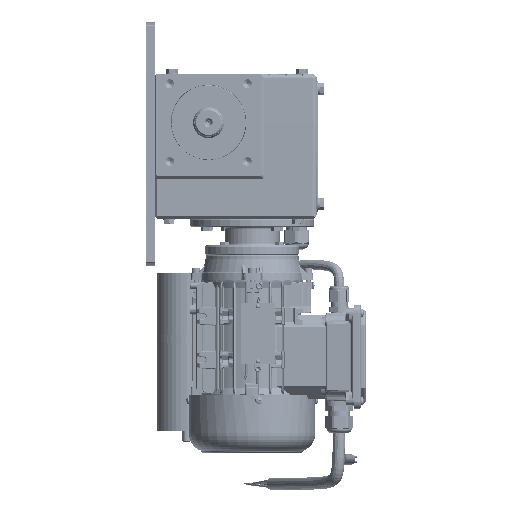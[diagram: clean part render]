
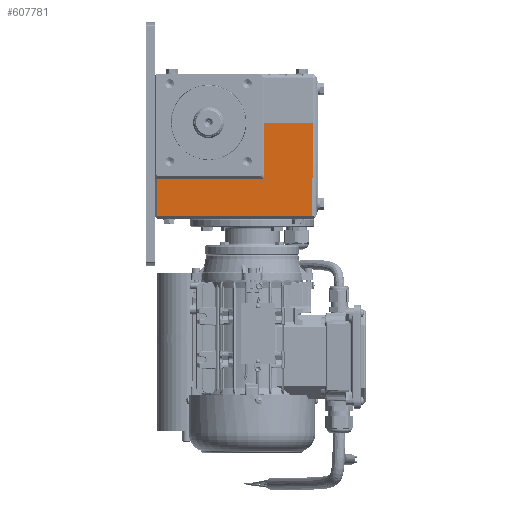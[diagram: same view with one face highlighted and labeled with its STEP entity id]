
A CAD part, left-side view. The second image highlights one B-rep face of the part: STEP entity #607781.
In plain terms, the highlighted planar face has unit normal (-1, 0, -0.009).
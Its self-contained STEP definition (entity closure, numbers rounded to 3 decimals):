
#2018 = VERTEX_POINT ( 'NONE', #98881 ) ;
#24142 = VECTOR ( 'NONE', #47215, 1000. ) ;
#47215 = DIRECTION ( 'NONE',  ( -0.009, 0.009, 1. ) ) ;
#50983 = EDGE_CURVE ( 'NONE', #521736, #702868, #375408, .T. ) ;
#51702 = ORIENTED_EDGE ( 'NONE', *, *, #50983, .F. ) ;
#68711 =( BOUNDED_CURVE ( )  B_SPLINE_CURVE ( 3, ( #193887, #304994, #364205, #238603 ),
 .UNSPECIFIED., .F., .F. ) 
 B_SPLINE_CURVE_WITH_KNOTS ( ( 4, 4 ),
 ( 2.61, 3.658 ),
 .UNSPECIFIED. ) 
 CURVE ( )  GEOMETRIC_REPRESENTATION_ITEM ( )  RATIONAL_B_SPLINE_CURVE ( ( 1., 0.911, 0.911, 1. ) ) 
 REPRESENTATION_ITEM ( '' )  );
#78133 = CARTESIAN_POINT ( 'NONE',  ( -93., -100.757, 0.011 ) ) ;
#98881 = CARTESIAN_POINT ( 'NONE',  ( -92.529, -51.85, -53.971 ) ) ;
#108630 = DIRECTION ( 'NONE',  ( 0.009, -0.009, -1. ) ) ;
#133674 = LINE ( 'NONE', #78133, #477766 ) ;
#137566 = EDGE_CURVE ( 'NONE', #581062, #702868, #133674, .T. ) ;
#149127 = VECTOR ( 'NONE', #419910, 1000. ) ;
#155018 = DIRECTION ( 'NONE',  ( -0.009, 0., 1. ) ) ;
#164887 = EDGE_CURVE ( 'NONE', #716192, #280302, #452913, .T. ) ;
#169314 = VECTOR ( 'NONE', #609310, 1000. ) ;
#183325 = ORIENTED_EDGE ( 'NONE', *, *, #540144, .F. ) ;
#185472 = EDGE_CURVE ( 'NONE', #526883, #521736, #342100, .T. ) ;
#193887 = CARTESIAN_POINT ( 'NONE',  ( -92.548, -53.952, -51.831 ) ) ;
#210619 = PLANE ( 'NONE',  #671218 ) ;
#217566 = CARTESIAN_POINT ( 'NONE',  ( -93.008, -53.492, 0.929 ) ) ;
#236227 = ORIENTED_EDGE ( 'NONE', *, *, #659332, .F. ) ;
#238603 = CARTESIAN_POINT ( 'NONE',  ( -92.529, -51.85, -53.971 ) ) ;
#264644 = CARTESIAN_POINT ( 'NONE',  ( -92.215, 49.215, -90. ) ) ;
#266213 = DIRECTION ( 'NONE',  ( -1., 0., -0.009 ) ) ;
#266732 = CARTESIAN_POINT ( 'NONE',  ( -93., -100.757, 0. ) ) ;
#278360 = EDGE_CURVE ( 'NONE', #374493, #2018, #68711, .T. ) ;
#280302 = VERTEX_POINT ( 'NONE', #264644 ) ;
#295420 = DIRECTION ( 'NONE',  ( 0., -1., 0. ) ) ;
#302662 = LINE ( 'NONE', #365533, #590361 ) ;
#304049 = DIRECTION ( 'NONE',  ( -0.009, -0.009, 1. ) ) ;
#304994 = CARTESIAN_POINT ( 'NONE',  ( -92.536, -53.964, -53.188 ) ) ;
#341870 = CARTESIAN_POINT ( 'NONE',  ( -92.585, 49.585, -47.5 ) ) ;
#342100 = LINE ( 'NONE', #453137, #384624 ) ;
#348492 = EDGE_LOOP ( 'NONE', ( #549565, #557576, #652095, #51702, #608443, #236227, #362803, #183325 ) ) ;
#362803 = ORIENTED_EDGE ( 'NONE', *, *, #278360, .T. ) ;
#364205 = CARTESIAN_POINT ( 'NONE',  ( -92.529, -53.195, -53.971 ) ) ;
#365533 = CARTESIAN_POINT ( 'NONE',  ( -92.215, 53., -90. ) ) ;
#374493 = VERTEX_POINT ( 'NONE', #417754 ) ;
#375408 = LINE ( 'NONE', #712504, #149127 ) ;
#384624 = VECTOR ( 'NONE', #679170, 1000. ) ;
#417754 = CARTESIAN_POINT ( 'NONE',  ( -92.548, -53.952, -51.831 ) ) ;
#419910 = DIRECTION ( 'NONE',  ( 0., -1., 0. ) ) ;
#431520 = CARTESIAN_POINT ( 'NONE',  ( -92.529, 53., -53.971 ) ) ;
#452913 = LINE ( 'NONE', #341870, #516790 ) ;
#453137 = CARTESIAN_POINT ( 'NONE',  ( -93., 53., 0. ) ) ;
#477766 = VECTOR ( 'NONE', #304049, 1000. ) ;
#487130 = LINE ( 'NONE', #431520, #169314 ) ;
#506276 = LINE ( 'NONE', #217566, #24142 ) ;
#516790 = VECTOR ( 'NONE', #108630, 1000. ) ;
#517020 = CARTESIAN_POINT ( 'NONE',  ( -92.529, 49.529, -53.971 ) ) ;
#521736 = VERTEX_POINT ( 'NONE', #727289 ) ;
#526883 = VERTEX_POINT ( 'NONE', #670625 ) ;
#540144 = EDGE_CURVE ( 'NONE', #716192, #2018, #487130, .T. ) ;
#544012 = FACE_OUTER_BOUND ( 'NONE', #348492, .T. ) ;
#546497 = CARTESIAN_POINT ( 'NONE',  ( -92.215, -99.972, -90. ) ) ;
#549565 = ORIENTED_EDGE ( 'NONE', *, *, #164887, .T. ) ;
#557576 = ORIENTED_EDGE ( 'NONE', *, *, #654619, .T. ) ;
#581062 = VERTEX_POINT ( 'NONE', #546497 ) ;
#590361 = VECTOR ( 'NONE', #295420, 1000. ) ;
#607781 = ADVANCED_FACE ( 'NONE', ( #544012 ), #210619, .T. ) ;
#608443 = ORIENTED_EDGE ( 'NONE', *, *, #185472, .F. ) ;
#609310 = DIRECTION ( 'NONE',  ( 0., -1., 0. ) ) ;
#652095 = ORIENTED_EDGE ( 'NONE', *, *, #137566, .T. ) ;
#654619 = EDGE_CURVE ( 'NONE', #280302, #581062, #302662, .T. ) ;
#659332 = EDGE_CURVE ( 'NONE', #374493, #526883, #506276, .T. ) ;
#670625 = CARTESIAN_POINT ( 'NONE',  ( -93., -53.5, 0. ) ) ;
#671218 = AXIS2_PLACEMENT_3D ( 'NONE', #725299, #266213, #155018 ) ;
#679170 = DIRECTION ( 'NONE',  ( 0., -1., 0. ) ) ;
#702868 = VERTEX_POINT ( 'NONE', #266732 ) ;
#712504 = CARTESIAN_POINT ( 'NONE',  ( -93., 53., 0. ) ) ;
#716192 = VERTEX_POINT ( 'NONE', #517020 ) ;
#725299 = CARTESIAN_POINT ( 'NONE',  ( -93., 53., 0. ) ) ;
#727289 = CARTESIAN_POINT ( 'NONE',  ( -93., -100.756, 0. ) ) ;
